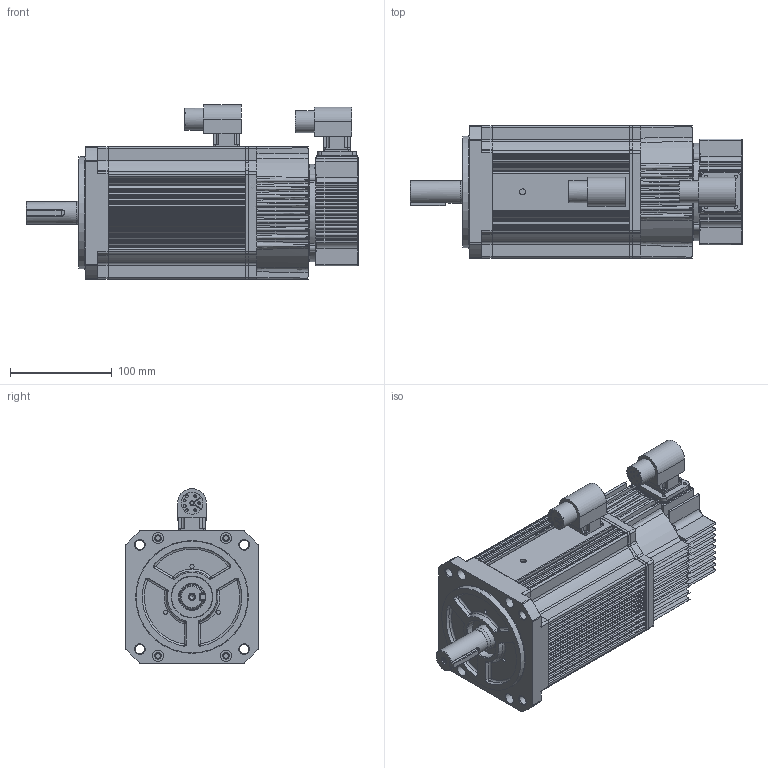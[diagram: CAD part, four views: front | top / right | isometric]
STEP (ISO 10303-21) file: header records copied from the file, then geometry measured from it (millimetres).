
FILE_DESCRIPTION( ( 'Unknown' ), '1' );
FILE_NAME( 'C:/Documents and Settings/chasechiu/桌面/2D&3D帶煞/DTSB13202B3/DTSB13202B3BG3D0K & DTSB13202B-380V機種 & DTSB13302C3BG3D0K.stp', 'Unknown', ( 'Unknown' ), ( 'Unknown' ), 'PSStep 14.0', 'Unknown', ' ' );
FILE_SCHEMA( ( 'AUTOMOTIVE_DESIGN { 1 0 10303 214 1 1 1 1 }' ) );
Length unit declared in the file: millimetre
Products named in the file (14): 0S180JMB7BA0P-00_0; 0S331JMA0BP01-01_0; Assem1; 0S302J0A1BP01-01_0; 0S363JD0584BP-01_0; ___(_擗); ___(___δ_; 0S861JA152111-02; \X2\50C5524D7AEF542B937569FD8EF\X0\; \X2\51F8625867B\X0\; \X2\4FDD84C\X0\; 1KW\X2\4EE54E0A752853F05EA\X0\; \X2\8ECD898F96326C34588A724\X0\; \X2\937\X0\
Assembly tree (13 placements, depth 3):
  Assem1
    0S302J0A1BP01-01_0
    0S363JD0584BP-01_0
    ___(_擗)
    ___(___δ_
    0S861JA152111-02
    \X2\50C5524D7AEF542B937569FD8EF\X0\
    \X2\51F8625867B\X0\
    \X2\4FDD84C\X0\
    1KW\X2\4EE54E0A752853F05EA\X0\
    \X2\8ECD898F96326C34588A724\X0\
    \X2\937\X0\
    0S180JMB7BA0P-00_0
      0S331JMA0BP01-01_0
Bounding box: 326.3 x 130.4 x 171.6 mm (x, y, z)
Volume: 3659486.1 mm3; surface area: 400135.4 mm2
Topology: 12 solids, 12 shells, 1747 faces, 4628 edges, 2969 vertices
Faces by surface type: cylinder 773, plane 663, torus 147, bspline 78, cone 66, sphere 20
Full cylindrical faces by diameter (mm): 1.5 x17, 1.926 x2, 1.985 x1, 2.013 x4, 2.4 x2, 2.459 x6, 2.5 x4, 2.585 x2, 2.611 x2, 2.621 x4, 2.637 x1, 2.7 x8, 2.834 x2, 3 x4, 3.25 x4, 3.5 x8, 3.746 x1, 4 x3, 4.134 x3, 5 x9, 6 x2, 6.2 x1, 6.5 x12, 9 x4, 11 x4, 20 x2, 21.5 x2, 22 x1, 24 x1, 24.9 x1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
Entity records: 76401 total; most frequent: CARTESIAN_POINT 19378, DIRECTION 9223, ORIENTED_EDGE 8732, EDGE_CURVE 4366, AXIS2_PLACEMENT_3D 3614, VERTEX_POINT 2897, EDGE_LOOP 2089, LINE 1995
